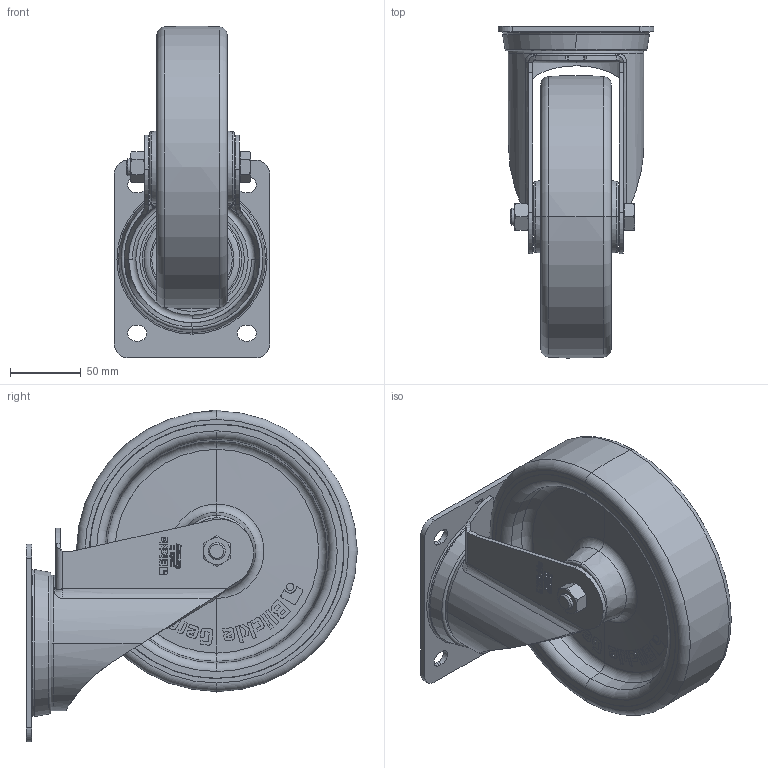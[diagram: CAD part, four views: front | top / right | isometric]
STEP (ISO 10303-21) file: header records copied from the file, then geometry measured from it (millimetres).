
FILE_DESCRIPTION (( 'STEP AP214' ), '1' );
FILE_NAME ('L-POTH_200R_044560-214.step', '2021-12-28T11:15:31', ( '' ), ( '' ), 'SwSTEP 2.0', 'SolidWorks 2018', '' );
FILE_SCHEMA (( 'AUTOMOTIVE_DESIGN' ));
Length unit declared in the file: millimetre
Products named in the file (5): GH-L-200x60-03_20x61_G16_3D; POTH_200_20R_G16_3D; L-POTH_200R_044560-214; POTH_3D_G16_POTH_200_20R_044438; GH-L_175-200_GH-L-200x60-03_20x61
Assembly tree (4 placements, depth 3):
  L-POTH_200R_044560-214
    GH-L_175-200_GH-L-200x60-03_20x61
      GH-L-200x60-03_20x61_G16_3D
    POTH_3D_G16_POTH_200_20R_044438
      POTH_200_20R_G16_3D
Bounding box: 110 x 234.92 x 234.92 mm (x, y, z)
Volume: 1153238.5 mm3; surface area: 221639.4 mm2
Topology: 2 solids, 10 shells, 1733 faces, 4624 edges, 3037 vertices
Faces by surface type: plane 793, bspline 642, cylinder 131, cone 109, torus 58
Entity records: 80169 total; most frequent: CARTESIAN_POINT 29402, ORIENTED_EDGE 9248, DIRECTION 5497, EDGE_CURVE 4624, VERTEX_POINT 3037, LINE 2175, VECTOR 2175, EDGE_LOOP 1889
